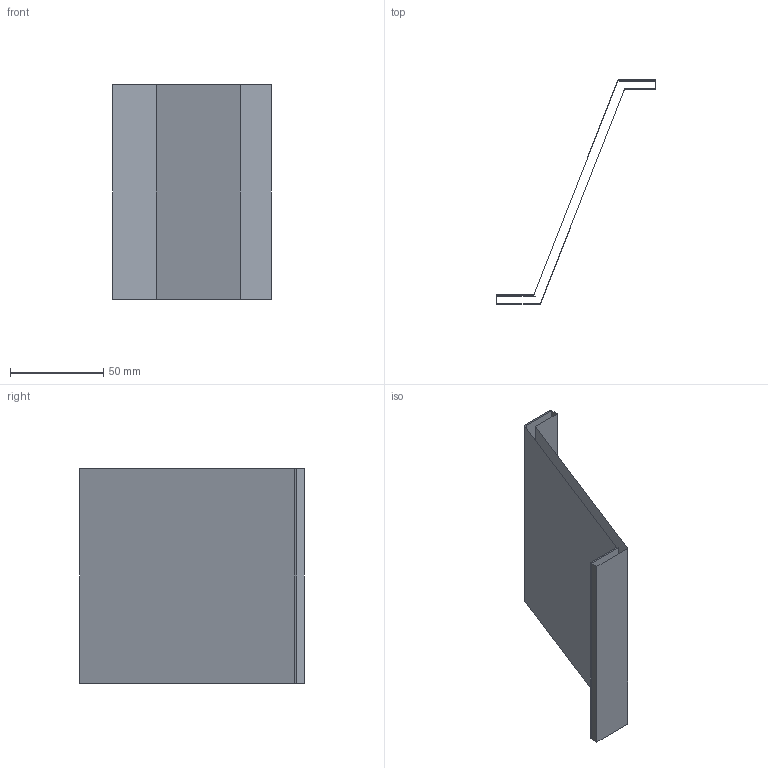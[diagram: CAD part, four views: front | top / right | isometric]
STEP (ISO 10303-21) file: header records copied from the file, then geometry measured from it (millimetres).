
FILE_DESCRIPTION(('CATIA V5 STEP Exchange'),'2;1');
FILE_NAME('C:\_Andres\UNIVERSIDAD\IQS\ASIGNATURAS\DAO\EXF\EXF-16172c\2inicio\Homs_Ruano_Ej06_v15.stp','2017-03-05T21:01:24+00:00',('none'),('none'),'CATIA Version 5-6 Release 2014 SP1 HF18','CATIA V5 STEP AP203','none');
FILE_SCHEMA(('CONFIG_CONTROL_DESIGN'));
Length unit declared in the file: millimetre
Products named in the file (1): Homs_Ruano_Ej06_v15
Bounding box: 85 x 120 x 115 mm (x, y, z)
Surface area: 43122.9 mm2 (no closed solid volume)
Topology: 0 solids, 2 shells, 10 faces, 42 edges, 36 vertices
Faces by surface type: plane 10
Entity records: 461 total; most frequent: CARTESIAN_POINT 100, DIRECTION 59, ORIENTED_EDGE 40, VECTOR 39, LINE 39, EDGE_CURVE 32, VERTEX_POINT 24, AXIS2_PLACEMENT_3D 11
